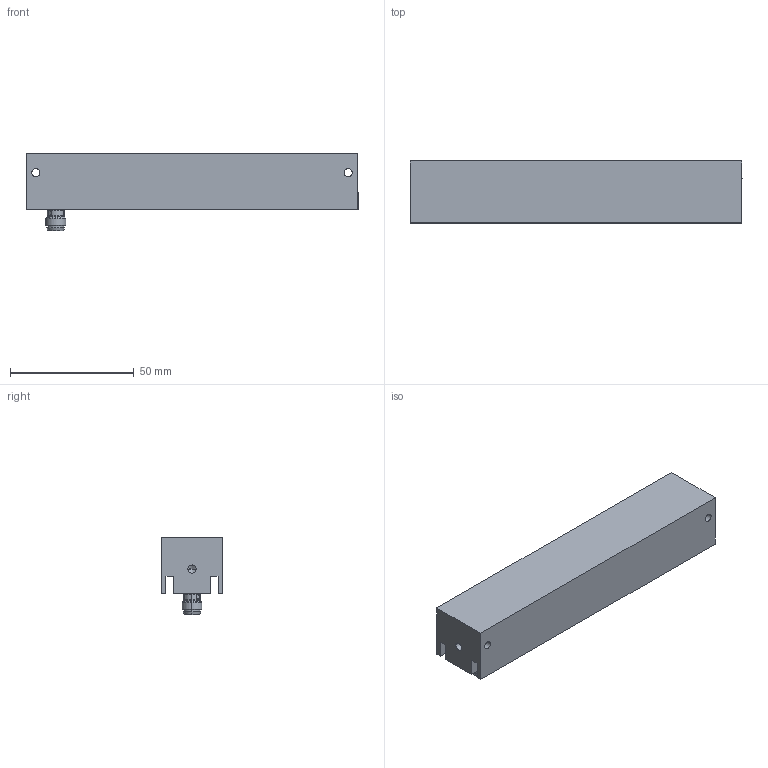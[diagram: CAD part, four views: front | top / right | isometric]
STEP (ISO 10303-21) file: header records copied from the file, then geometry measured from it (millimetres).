
FILE_DESCRIPTION(('STEP AP214'),'1');
FILE_NAME('Z:/Projekte Hr. Wünsch/SpaceClaim/TOP-HI-LINE-D/LINE-D2-NEU/HI-LINE-D2-Kundendatei.stp','2014-06-23T07:28:26',(' '),(' '),'Spatial InterOp 3D',' ',' ');
FILE_SCHEMA(('automotive_design'));
Length unit declared in the file: millimetre
Products named in the file (2): HI-LINE-D2-Kundendatei; M8-Einbaustecker
Assembly tree (1 placements, depth 2):
  HI-LINE-D2-Kundendatei
    M8-Einbaustecker
Bounding box: 134 x 25 x 31.4 mm (x, y, z)
Volume: 50652.1 mm3; surface area: 28566.7 mm2
Topology: 1 solids, 6 shells, 232 faces, 579 edges, 358 vertices
Faces by surface type: cylinder 122, plane 62, cone 32, bspline 8, sphere 4, torus 4
Entity records: 9583 total; most frequent: CARTESIAN_POINT 2239, DIRECTION 1187, ORIENTED_EDGE 1098, EDGE_CURVE 549, AXIS2_PLACEMENT_3D 488, VERTEX_POINT 358, EDGE_LOOP 265, CIRCLE 259
